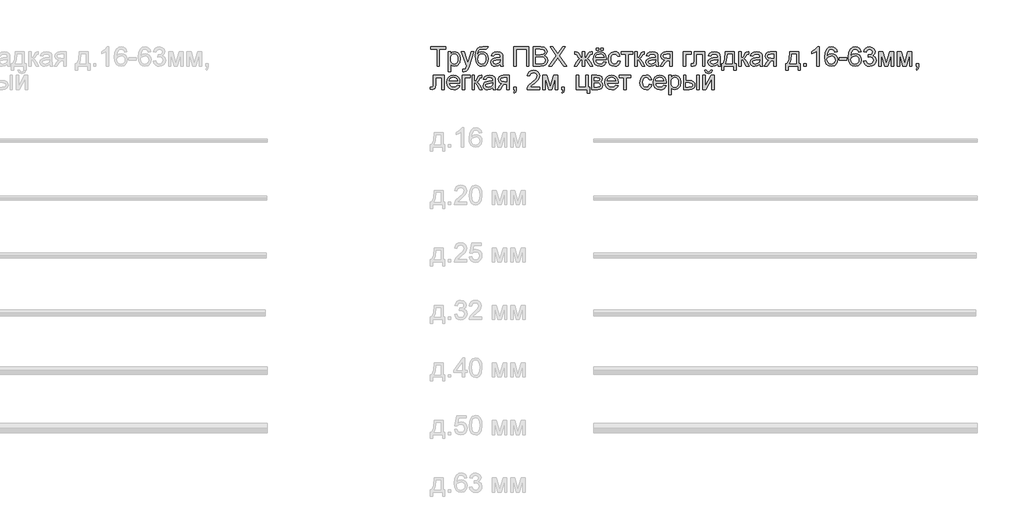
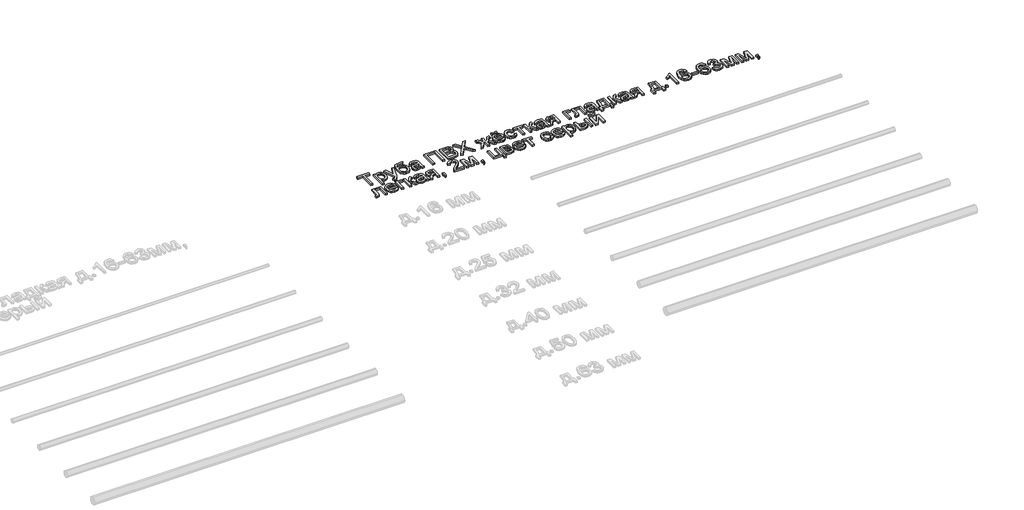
# One storey, part 98 of 98: 1 proxy.
"""IFC4 building model written with IfcOpenShell, lengths in millimetres."""

from ifc_helpers import new_model, si_unit, origin, origin_with_axes, place, context, project, spatial, polyline, outline, extrude, element, save

model = new_model("IFC4")

# Units and contexts
model_context = context("Model", 3, world=origin())
ifc_project = project(units=[si_unit("LENGTHUNIT", "METRE", prefix="MILLI")], contexts=[model_context])

# Site, building, storey
site = spatial("IfcSite", under=ifc_project)
building = spatial("IfcBuilding", under=site)
storey = spatial("IfcBuildingStorey", under=building, Name="Этаж 01", Elevation=0.0)

# Proxy
placement = place(None, origin())
element("IfcBuildingElementProxy", 1, Name="100", ObjectType="100", at=placement, inside=storey, context=model_context, shape_type="SweptSolid", body=[
    extrude(outline(polyline([(14788.710485, -3215.5625308), (14788.710485, -3127.6632594), (14755.7482582, -3127.6632594), (14755.7482582, -3115.1062206), (14834.2297505, -3115.1062206), (14834.2297505, -3127.6632594), (14801.2675238, -3127.6632594), (14801.2675238, -3215.5625308), (14788.710485, -3215.5625308)])), origin_with_axes(), (0.0, 0.0, 1.0), 10.0),
    extrude(outline(polyline([(14846.7867893, -3243.815868), (14846.7867893, -3141.789928), (14859.3438281, -3141.789928), (14859.3438281, -3154.1017121), (14868.0258432, -3143.6906516), (14879.7490161, -3140.2202982), (14895.6660437, -3145.0763405), (14906.0648415, -3158.7615507), (14909.5719831, -3178.1121437), (14905.6111203, -3198.456018), (14894.1086766, -3212.3129065), (14878.2284372, -3217.1321606), (14867.3023419, -3213.9070618), (14859.3438281, -3205.7523442), (14859.3438281, -3243.815868), (14846.7867893, -3243.815868)]), holes=[polyline([(14859.3438281, -3179.2648406), (14860.7019258, -3190.5220296), (14864.7762189, -3198.3947043), (14870.7880238, -3203.0300175), (14877.958657, -3204.5751218), (14885.2457862, -3202.9748352), (14891.4108753, -3198.1739751), (14895.6139271, -3190.0131262), (14897.0149444, -3178.3328729), (14895.6476496, -3167.1369975), (14891.5457654, -3159.1539582), (14885.5431575, -3154.3714922), (14878.4736918, -3152.7773369), (14871.376635, -3154.4726598), (14865.1441009, -3159.5586284), (14860.7938963, -3167.8758271), (14859.3438281, -3179.2648406)])]), origin_with_axes(), (0.0, 0.0, 1.0), 10.0),
    extrude(outline(polyline([(14923.6986518, -3243.815868), (14922.1290219, -3231.7248131), (14928.5056432, -3232.8284591), (14934.4653315, -3231.4427702), (14938.119626, -3227.5800093), (14941.5531913, -3218.3339085), (14942.5342099, -3215.2927506), (14915.8505025, -3141.789928), (14929.0942544, -3141.789928), (14943.2454484, -3182.7474568), (14948.1750672, -3199.1304683), (14953.1046859, -3184.6604432), (14967.6482874, -3141.789928), (14980.7939374, -3141.789928), (14955.1157741, -3217.3283643), (14948.4448473, -3233.7113759), (14941.1607838, -3242.5650692), (14931.3751227, -3245.3854978), (14923.6986518, -3243.815868)])), origin_with_axes(), (0.0, 0.0, 1.0), 10.0),
    extrude(outline(polyline([(15042.9905201, -3113.5365908), (15053.977929, -3113.5365908), (15050.7405674, -3123.3345146), (15044.3394207, -3126.8784445), (15028.9619533, -3127.6632594), (15008.250197, -3130.5572644), (15000.3039459, -3139.8278907), (14997.6184073, -3156.2354277), (15008.4954516, -3144.2179492), (15022.5117557, -3140.2202982), (15035.5776979, -3142.7617496), (15046.1788307, -3150.386104), (15053.2053768, -3162.3453345), (15055.5475588, -3177.8914145), (15050.899983, -3199.4983503), (15039.8757858, -3212.5336357), (15022.5117557, -3217.1321606), (15011.1779245, -3215.6514356), (15002.6829161, -3211.2092605), (14991.8303973, -3196.0525223), (14988.0534754, -3163.8873732), (14990.4355114, -3139.7941682), (14997.5816191, -3125.1003482), (15009.6696083, -3117.6047525), (15026.8772887, -3115.1062206), (15040.8568045, -3114.8241778), (15042.9905201, -3113.5365908)]), holes=[polyline([(15042.9905201, -3177.499007), (15041.6293567, -3167.6183097), (15037.5458665, -3159.7057812), (15030.9853043, -3154.509448), (15022.1929246, -3152.7773369), (15013.0265315, -3154.6075499), (15006.226846, -3160.0981886), (15002.0145972, -3168.6483793), (15000.6105142, -3179.657248), (15002.16175, -3190.3288916), (15006.8154572, -3198.1617124), (15013.7439014, -3202.9717695), (15022.1193482, -3204.5751218), (15030.5377145, -3202.7203835), (15037.20251, -3197.1561683), (15041.5435175, -3188.5324012), (15042.9905201, -3177.499007)])]), origin_with_axes(), (0.0, 0.0, 1.0), 10.0),
    extrude(outline(polyline([(15118.3327527, -3206.1447517), (15106.1558586, -3214.6550885), (15092.7036403, -3217.1321606), (15082.2098064, -3215.6422385), (15074.4689561, -3211.1724723), (15069.6956872, -3204.3850495), (15068.1045976, -3195.9421577), (15070.5080933, -3186.0093438), (15076.8234009, -3178.7988567), (15085.6157806, -3174.6785784), (15096.4805622, -3172.7901175), (15118.2591763, -3168.4736354), (15118.3327527, -3165.6777322), (15114.8746619, -3156.4071059), (15100.993248, -3152.7773369), (15088.2890564, -3155.1930954), (15082.2312662, -3163.7647458), (15069.6742274, -3162.195116), (15075.1066182, -3149.9323828), (15086.0449762, -3142.7464212), (15102.6119287, -3140.2202982), (15117.8299806, -3142.4521156), (15126.4261566, -3148.0561847), (15130.2766548, -3156.5787842), (15130.8897914, -3167.5661931), (15130.8897914, -3183.1889152), (15131.5274536, -3205.0043175), (15134.0290511, -3215.5625308), (15121.4720124, -3215.5625308), (15118.3327527, -3206.1447517)]), holes=[polyline([(15118.3327527, -3181.0306742), (15098.0747175, -3184.8811724), (15087.2712495, -3186.9167861), (15082.378419, -3190.227724), (15080.6616364, -3195.0592409), (15084.40177, -3201.8527951), (15095.3769162, -3204.5751218), (15108.0811077, -3201.5707522), (15116.2726135, -3194.2989514), (15118.2591763, -3184.5868668), (15118.3327527, -3181.0306742)])]), origin_with_axes(), (0.0, 0.0, 1.0), 10.0),
    extrude(outline(polyline([(15188.9660957, -3115.1062206), (15267.447588, -3115.1062206), (15267.447588, -3215.5625308), (15254.8905493, -3215.5625308), (15254.8905493, -3127.6632594), (15201.5231345, -3127.6632594), (15201.5231345, -3215.5625308), (15188.9660957, -3215.5625308), (15188.9660957, -3115.1062206)])), origin_with_axes(), (0.0, 0.0, 1.0), 10.0),
    extrude(outline(polyline([(15289.4224059, -3215.5625308), (15289.4224059, -3115.1062206), (15327.7557098, -3115.1062206), (15346.5299543, -3118.0615393), (15357.6154651, -3127.1482246), (15361.6253788, -3139.999569), (15358.2531272, -3151.7350046), (15348.0627959, -3160.6254862), (15360.4358937, -3169.9942143), (15364.7646385, -3185.6169364), (15361.8093198, -3199.1182056), (15354.4884681, -3208.7321884), (15343.5623728, -3213.8334854), (15327.4614042, -3215.5625308), (15289.4224059, -3215.5625308)]), holes=[polyline([(15301.9794447, -3155.9165966), (15324.9107557, -3155.9165966), (15338.3016603, -3154.8374761), (15346.358276, -3150.1899002), (15349.06834, -3142.0106572), (15346.542217, -3133.8191514), (15339.3072044, -3128.9753718), (15323.1694476, -3127.6632594), (15301.9794447, -3127.6632594), (15301.9794447, -3155.9165966)]), polyline([(15301.9794447, -3203.005492), (15327.7311843, -3203.005492), (15337.0508615, -3202.5149827), (15344.935799, -3199.7803932), (15350.1597233, -3194.2008496), (15352.2075997, -3185.7395637), (15349.804104, -3175.9784281), (15342.0172685, -3170.1536298), (15326.504911, -3168.4736354), (15301.9794447, -3168.4736354), (15301.9794447, -3203.005492)])]), origin_with_axes(), (0.0, 0.0, 1.0), 10.0),
    extrude(outline(polyline([(15371.0431579, -3215.5625308), (15409.7688692, -3160.8216899), (15377.3216773, -3115.1062206), (15392.3803136, -3115.1062206), (15410.651786, -3140.8334348), (15416.8076781, -3150.8643505), (15424.0181652, -3140.6617566), (15442.0934339, -3115.1062206), (15457.3727994, -3115.1062206), (15424.9256074, -3160.9688427), (15463.6513188, -3215.5625308), (15448.5926825, -3215.5625308), (15422.7918919, -3179.1667387), (15417.4208147, -3171.6128951), (15411.5101774, -3179.9025027), (15386.3225234, -3215.5625308), (15371.0431579, -3215.5625308)])), origin_with_axes(), (0.0, 0.0, 1.0), 10.0),
    extrude(outline(polyline([(15557.8291096, -3141.789928), (15557.8291096, -3173.1825249), (15565.1499613, -3170.5950882), (15572.0784055, -3157.1673954), (15580.3434877, -3144.2915256), (15592.0911861, -3141.789928), (15597.0698557, -3141.789928), (15597.0698557, -3154.4205432), (15593.611765, -3154.3469668), (15587.1370419, -3155.6468165), (15582.6488815, -3163.7892713), (15577.4372199, -3172.7165411), (15569.9937409, -3177.2537523), (15578.2036407, -3182.1404515), (15586.2050741, -3192.435016), (15600.2091154, -3215.5625308), (15585.8126667, -3215.5625308), (15572.0293546, -3192.7538471), (15565.0028085, -3183.2747543), (15557.8291096, -3181.0306742), (15557.8291096, -3215.5625308), (15545.2720708, -3215.5625308), (15545.2720708, -3181.0306742), (15538.1228974, -3183.2257034), (15531.0473003, -3192.7047961), (15517.2639882, -3215.5625308), (15502.892065, -3215.5625308), (15516.8470553, -3192.435016), (15524.9098024, -3182.1404515), (15533.1564904, -3177.2537523), (15525.2592903, -3172.2505572), (15518.4902616, -3159.3746874), (15515.1793236, -3155.1317817), (15509.7591955, -3154.2733904), (15506.0313247, -3154.3469668), (15506.0313247, -3141.789928), (15507.9197856, -3141.789928), (15518.93172, -3142.5747429), (15524.6461536, -3145.9102063), (15531.0473003, -3157.1673954), (15537.9021682, -3170.5092491), (15545.2720708, -3173.1825249), (15545.2720708, -3141.789928), (15557.8291096, -3141.789928)])), origin_with_axes(), (0.0, 0.0, 1.0), 10.0),
    extrude(outline(polyline([(15642.5891213, -3133.9417788), (15642.5891213, -3121.38474), (15655.14616, -3121.38474), (15655.14616, -3133.9417788), (15642.5891213, -3133.9417788)])), origin_with_axes(), (0.0, 0.0, 1.0), 10.0),
    extrude(outline(polyline([(15617.4750437, -3133.9417788), (15617.4750437, -3121.38474), (15630.0320825, -3121.38474), (15630.0320825, -3133.9417788), (15617.4750437, -3133.9417788)])), origin_with_axes(), (0.0, 0.0, 1.0), 10.0),
    extrude(outline(polyline([(15658.1382669, -3193.5877129), (15670.450051, -3195.1573428), (15666.0140073, -3204.4341004), (15658.9353446, -3211.368676), (15649.3734784, -3215.6912895), (15637.4878243, -3217.1321606), (15622.7541504, -3214.6458915), (15611.4172535, -3207.187084), (15604.1883723, -3195.2401162), (15601.7787453, -3179.289366), (15604.2128978, -3162.8021213), (15611.5153554, -3150.4719431), (15622.6989681, -3142.7832094), (15636.7765857, -3140.2202982), (15650.4158107, -3142.777078), (15661.3143148, -3150.4474176), (15668.4604226, -3162.7530704), (15670.8424585, -3179.2157896), (15670.7688821, -3182.600304), (15614.335784, -3182.600304), (15616.5093535, -3191.999689), (15621.5585339, -3198.9097391), (15628.8456631, -3203.1587762), (15637.7330789, -3204.5751218), (15650.044863, -3201.9508969), (15658.1382669, -3193.5877129)]), holes=[polyline([(15614.335784, -3170.0432652), (15658.2854197, -3170.0432652), (15653.2576991, -3158.6634488), (15645.9368474, -3154.2488649), (15636.7275348, -3152.7773369), (15621.2642283, -3157.4739637), (15616.3989889, -3162.9646025), (15614.335784, -3170.0432652)])]), origin_with_axes(), (0.0, 0.0, 1.0), 10.0),
    extrude(outline(polyline([(15730.4883926, -3188.8788234), (15743.0454314, -3190.4484532), (15739.5444211, -3201.6167375), (15732.9654647, -3210.0565636), (15723.9278304, -3215.3632614), (15713.0507861, -3217.1321606), (15699.693604, -3214.6642856), (15689.248821, -3207.2606604), (15682.5073834, -3195.2462476), (15680.2602376, -3178.9460095), (15684.0984731, -3158.0871004), (15695.7971205, -3144.683933), (15712.8791078, -3140.2202982), (15723.4894377, -3141.7531398), (15731.9721834, -3146.3516647), (15738.0575647, -3153.7706183), (15741.4758016, -3163.7647458), (15728.9187628, -3165.3343757), (15723.0939645, -3155.9288593), (15712.9772097, -3152.7773369), (15704.862346, -3154.3285727), (15698.4213454, -3158.9822799), (15694.2182936, -3166.9898447), (15692.8172763, -3178.602653), (15694.1876368, -3190.3718111), (15698.2987181, -3198.4069671), (15704.6232227, -3203.0330831), (15712.6338531, -3204.5751218), (15724.4673907, -3200.7246236), (15730.4883926, -3188.8788234)])), origin_with_axes(), (0.0, 0.0, 1.0), 10.0),
    extrude(outline(polyline([(15747.754321, -3141.789928), (15807.4002551, -3141.789928), (15807.4002551, -3154.3469668), (15783.8558074, -3154.3469668), (15783.8558074, -3215.5625308), (15771.2987686, -3215.5625308), (15771.2987686, -3154.3469668), (15747.754321, -3154.3469668), (15747.754321, -3141.789928)])), origin_with_axes(), (0.0, 0.0, 1.0), 10.0),
    extrude(outline(polyline([(15818.387664, -3141.789928), (15830.9447028, -3141.789928), (15830.9447028, -3173.1825249), (15839.3569377, -3170.926182), (15846.2485938, -3157.7805321), (15851.9752902, -3146.4375039), (15857.0275363, -3142.7464212), (15866.2123234, -3141.789928), (15868.6158191, -3141.789928), (15868.6158191, -3154.4205432), (15865.2313047, -3154.3469668), (15859.0999382, -3155.671342), (15854.7834561, -3163.9364241), (15849.7189473, -3172.8759566), (15842.6188248, -3177.2537523), (15850.5405504, -3182.1404515), (15858.3151232, -3192.435016), (15871.7550788, -3215.5625308), (15857.4812574, -3215.5625308), (15844.311082, -3192.9255253), (15837.689206, -3183.3483307), (15830.9447028, -3181.0306742), (15830.9447028, -3215.5625308), (15818.387664, -3215.5625308), (15818.387664, -3141.789928)])), origin_with_axes(), (0.0, 0.0, 1.0), 10.0),
    extrude(outline(polyline([(15926.6921234, -3206.1447517), (15914.5152294, -3214.6550885), (15901.0630111, -3217.1321606), (15890.5691772, -3215.6422385), (15882.8283268, -3211.1724723), (15878.055058, -3204.3850495), (15876.4639683, -3195.9421577), (15878.867464, -3186.0093438), (15885.1827716, -3178.7988567), (15893.9751513, -3174.6785784), (15904.8399329, -3172.7901175), (15926.618547, -3168.4736354), (15926.6921234, -3165.6777322), (15923.2340326, -3156.4071059), (15909.3526187, -3152.7773369), (15896.6484271, -3155.1930954), (15890.5906369, -3163.7647458), (15878.0335982, -3162.195116), (15883.465989, -3149.9323828), (15894.404347, -3142.7464212), (15910.9712995, -3140.2202982), (15926.1893513, -3142.4521156), (15934.7855273, -3148.0561847), (15938.6360255, -3156.5787842), (15939.2491622, -3167.5661931), (15939.2491622, -3183.1889152), (15939.8868243, -3205.0043175), (15942.3884219, -3215.5625308), (15929.8313831, -3215.5625308), (15926.6921234, -3206.1447517)]), holes=[polyline([(15926.6921234, -3181.0306742), (15906.4340882, -3184.8811724), (15895.6306203, -3186.9167861), (15890.7377897, -3190.227724), (15889.0210071, -3195.0592409), (15892.7611407, -3201.8527951), (15903.7362869, -3204.5751218), (15916.4404785, -3201.5707522), (15924.6319842, -3194.2989514), (15926.618547, -3184.5868668), (15926.6921234, -3181.0306742)])]), origin_with_axes(), (0.0, 0.0, 1.0), 10.0),
    extrude(outline(polyline([(16013.0217649, -3141.789928), (16013.0217649, -3215.5625308), (16000.4647262, -3215.5625308), (16000.4647262, -3187.3091935), (15993.6221211, -3187.3091935), (15984.3024438, -3188.9033489), (15975.5468524, -3199.6209776), (15965.5404621, -3215.5625308), (15951.021386, -3215.5625308), (15963.6274757, -3195.4025974), (15974.320579, -3184.9547488), (15965.7366658, -3182.3243925), (15959.7034011, -3177.3273287), (15954.9454606, -3163.1025583), (15956.5702728, -3154.5063823), (15961.4447092, -3147.7005654), (15969.3970917, -3143.2675873), (15980.2557419, -3141.789928), (16013.0217649, -3141.789928)]), holes=[polyline([(16000.4647262, -3154.3469668), (15983.9100364, -3154.3469668), (15970.506869, -3157.2532345), (15967.5024994, -3164.0590514), (15971.9293461, -3172.1647181), (15987.6133818, -3174.7521548), (16000.4647262, -3174.7521548), (16000.4647262, -3154.3469668)])]), origin_with_axes(), (0.0, 0.0, 1.0), 10.0),
    extrude(outline(polyline([(16071.0980692, -3141.789928), (16111.9084452, -3141.789928), (16111.9084452, -3154.3469668), (16083.655108, -3154.3469668), (16083.655108, -3215.5625308), (16071.0980692, -3215.5625308), (16071.0980692, -3141.789928)])), origin_with_axes(), (0.0, 0.0, 1.0), 10.0),
    extrude(outline(polyline([(16127.6047437, -3141.789928), (16184.1114182, -3141.789928), (16184.1114182, -3215.4889544), (16171.5543794, -3215.4889544), (16171.5543794, -3154.3469668), (16140.1617825, -3154.3469668), (16140.1617825, -3189.541011), (16139.3156539, -3205.7768697), (16134.668078, -3212.6317375), (16123.6806691, -3215.5625308), (16113.4780751, -3214.9248686), (16113.4780751, -3203.005492), (16119.0944069, -3203.005492), (16124.7720523, -3202.2329398), (16127.040658, -3199.7803932), (16127.6047437, -3188.8297725), (16127.6047437, -3141.789928)])), origin_with_axes(), (0.0, 0.0, 1.0), 10.0),
    extrude(outline(polyline([(16250.0358717, -3206.1447517), (16237.8589777, -3214.6550885), (16224.4067594, -3217.1321606), (16213.9129255, -3215.6422385), (16206.1720751, -3211.1724723), (16201.3988063, -3204.3850495), (16199.8077166, -3195.9421577), (16202.2112123, -3186.0093438), (16208.5265199, -3178.7988567), (16217.3188996, -3174.6785784), (16228.1836812, -3172.7901175), (16249.9622953, -3168.4736354), (16250.0358717, -3165.6777322), (16246.5777809, -3156.4071059), (16232.696367, -3152.7773369), (16219.9921754, -3155.1930954), (16213.9343852, -3163.7647458), (16201.3773465, -3162.195116), (16206.8097373, -3149.9323828), (16217.7480953, -3142.7464212), (16234.3150478, -3140.2202982), (16249.5330996, -3142.4521156), (16258.1292756, -3148.0561847), (16261.9797738, -3156.5787842), (16262.5929105, -3167.5661931), (16262.5929105, -3183.1889152), (16263.2305726, -3205.0043175), (16265.7321702, -3215.5625308), (16253.1751314, -3215.5625308), (16250.0358717, -3206.1447517)]), holes=[polyline([(16250.0358717, -3181.0306742), (16229.7778365, -3184.8811724), (16218.9743686, -3186.9167861), (16214.081538, -3190.227724), (16212.3647554, -3195.0592409), (16216.104889, -3201.8527951), (16227.0800352, -3204.5751218), (16239.7842268, -3201.5707522), (16247.9757325, -3194.2989514), (16249.9622953, -3184.5868668), (16250.0358717, -3181.0306742)])]), origin_with_axes(), (0.0, 0.0, 1.0), 10.0),
    extrude(outline(polyline([(16290.8462477, -3141.789928), (16337.9351431, -3141.789928), (16337.9351431, -3203.005492), (16347.3529222, -3203.005492), (16347.3529222, -3235.9677188), (16334.7958834, -3235.9677188), (16334.7958834, -3215.5625308), (16282.9980985, -3215.5625308), (16282.9980985, -3235.9677188), (16270.4410597, -3235.9677188), (16270.4410597, -3203.005492), (16278.2892089, -3203.005492), (16287.9890309, -3179.0563741), (16290.8462477, -3141.789928)]), holes=[polyline([(16301.8336566, -3154.3469668), (16298.8906007, -3182.9559233), (16292.4158775, -3203.005492), (16325.3781043, -3203.005492), (16325.3781043, -3154.3469668), (16301.8336566, -3154.3469668)])]), origin_with_axes(), (0.0, 0.0, 1.0), 10.0),
    extrude(outline(polyline([(16361.4795908, -3141.789928), (16374.0366295, -3141.789928), (16374.0366295, -3173.1825249), (16382.4488645, -3170.926182), (16389.3405205, -3157.7805321), (16395.0672169, -3146.4375039), (16400.119463, -3142.7464212), (16409.3042501, -3141.789928), (16411.7077458, -3141.789928), (16411.7077458, -3154.4205432), (16408.3232315, -3154.3469668), (16402.1918649, -3155.671342), (16397.8753828, -3163.9364241), (16392.810874, -3172.8759566), (16385.7107515, -3177.2537523), (16393.6324771, -3182.1404515), (16401.40705, -3192.435016), (16414.8470055, -3215.5625308), (16400.5731841, -3215.5625308), (16387.4030087, -3192.9255253), (16380.7811328, -3183.3483307), (16374.0366295, -3181.0306742), (16374.0366295, -3215.5625308), (16361.4795908, -3215.5625308), (16361.4795908, -3141.789928)])), origin_with_axes(), (0.0, 0.0, 1.0), 10.0),
    extrude(outline(polyline([(16469.7840502, -3206.1447517), (16457.6071561, -3214.6550885), (16444.1549378, -3217.1321606), (16433.6611039, -3215.6422385), (16425.9202536, -3211.1724723), (16421.1469847, -3204.3850495), (16419.5558951, -3195.9421577), (16421.9593908, -3186.0093438), (16428.2746984, -3178.7988567), (16437.067078, -3174.6785784), (16447.9318596, -3172.7901175), (16469.7104738, -3168.4736354), (16469.7840502, -3165.6777322), (16466.3259594, -3156.4071059), (16452.4445454, -3152.7773369), (16439.7403539, -3155.1930954), (16433.6825637, -3163.7647458), (16421.1255249, -3162.195116), (16426.5579157, -3149.9323828), (16437.4962737, -3142.7464212), (16454.0632262, -3140.2202982), (16469.2812781, -3142.4521156), (16477.877454, -3148.0561847), (16481.7279523, -3156.5787842), (16482.3410889, -3167.5661931), (16482.3410889, -3183.1889152), (16482.978751, -3205.0043175), (16485.4803486, -3215.5625308), (16472.9233098, -3215.5625308), (16469.7840502, -3206.1447517)]), holes=[polyline([(16469.7840502, -3181.0306742), (16449.5260149, -3184.8811724), (16438.722547, -3186.9167861), (16433.8297165, -3190.227724), (16432.1129338, -3195.0592409), (16435.8530675, -3201.8527951), (16446.8282137, -3204.5751218), (16459.5324052, -3201.5707522), (16467.723911, -3194.2989514), (16469.7104738, -3184.5868668), (16469.7840502, -3181.0306742)])]), origin_with_axes(), (0.0, 0.0, 1.0), 10.0),
    extrude(outline(polyline([(16556.1136917, -3141.789928), (16556.1136917, -3215.5625308), (16543.5566529, -3215.5625308), (16543.5566529, -3187.3091935), (16536.7140478, -3187.3091935), (16527.3943706, -3188.9033489), (16518.6387791, -3199.6209776), (16508.6323888, -3215.5625308), (16494.1133128, -3215.5625308), (16506.7194025, -3195.4025974), (16517.4125058, -3184.9547488), (16508.8285926, -3182.3243925), (16502.7953279, -3177.3273287), (16498.0373874, -3163.1025583), (16499.6621995, -3154.5063823), (16504.536636, -3147.7005654), (16512.4890184, -3143.2675873), (16523.3476686, -3141.789928), (16556.1136917, -3141.789928)]), holes=[polyline([(16543.5566529, -3154.3469668), (16527.0019631, -3154.3469668), (16513.5987958, -3157.2532345), (16510.5944261, -3164.0590514), (16515.0212728, -3172.1647181), (16530.7053086, -3174.7521548), (16543.5566529, -3174.7521548), (16543.5566529, -3154.3469668)])]), origin_with_axes(), (0.0, 0.0, 1.0), 10.0),
    extrude(outline(polyline([(16625.1774049, -3141.789928), (16672.2663003, -3141.789928), (16672.2663003, -3203.005492), (16681.6840794, -3203.005492), (16681.6840794, -3235.9677188), (16669.1270406, -3235.9677188), (16669.1270406, -3215.5625308), (16617.3292557, -3215.5625308), (16617.3292557, -3235.9677188), (16604.7722169, -3235.9677188), (16604.7722169, -3203.005492), (16612.6203661, -3203.005492), (16622.3201881, -3179.0563741), (16625.1774049, -3141.789928)]), holes=[polyline([(16636.1648138, -3154.3469668), (16633.2217579, -3182.9559233), (16626.7470348, -3203.005492), (16659.7092615, -3203.005492), (16659.7092615, -3154.3469668), (16636.1648138, -3154.3469668)])]), origin_with_axes(), (0.0, 0.0, 1.0), 10.0),
    extrude(outline(polyline([(16698.9500077, -3215.5625308), (16698.9500077, -3203.005492), (16711.5070464, -3203.005492), (16711.5070464, -3215.5625308), (16698.9500077, -3215.5625308)])), origin_with_axes(), (0.0, 0.0, 1.0), 10.0),
    extrude(outline(polyline([(16779.0011298, -3215.5625308), (16766.4440911, -3215.5625308), (16766.4440911, -3137.2772422), (16754.5492399, -3145.7507908), (16741.3300135, -3152.0906239), (16741.3300135, -3140.2202982), (16759.736376, -3128.4725998), (16770.9077259, -3115.1062206), (16779.0011298, -3115.1062206), (16779.0011298, -3215.5625308)])), origin_with_axes(), (0.0, 0.0, 1.0), 10.0),
    extrude(outline(polyline([(16873.1789206, -3141.789928), (16860.6218818, -3143.3595578), (16855.8639414, -3132.8871837), (16843.2823771, -3127.6632594), (16831.9516117, -3130.7044172), (16823.3799612, -3142.1210218), (16819.8115058, -3164.5005098), (16830.8847539, -3154.4818568), (16844.6067523, -3151.2077071), (16856.2072979, -3153.4456559), (16865.943908, -3160.1595023), (16872.5473898, -3170.4172786), (16874.7485504, -3183.2870171), (16870.6037466, -3200.614259), (16859.1994048, -3212.8769922), (16842.7428169, -3217.1321606), (16828.4965866, -3214.311732), (16817.1504927, -3205.8504461), (16809.7284735, -3190.9144371), (16807.2544671, -3168.6698391), (16810.0013193, -3143.6599948), (16818.241876, -3126.5596134), (16829.4929337, -3117.9695688), (16844.067192, -3115.1062206), (16855.0852578, -3116.8781856), (16863.9082943, -3122.1940804), (16870.0887118, -3130.6369722), (16873.1789206, -3141.789928)]), holes=[polyline([(16819.8115058, -3183.0908133), (16822.7177736, -3193.9678577), (16830.4432955, -3201.8650578), (16841.7617982, -3204.5751218), (16850.0483401, -3203.1710389), (16856.5629171, -3198.9587901), (16860.784363, -3192.3369141), (16862.1915117, -3183.70395), (16860.8027571, -3175.417408), (16856.6364935, -3169.0990348), (16850.0115519, -3165.0983181), (16841.2467634, -3163.7647458), (16826.053237, -3169.0990348), (16821.3719386, -3175.2641239), (16819.8115058, -3183.0908133)])]), origin_with_axes(), (0.0, 0.0, 1.0), 10.0),
    extrude(outline(polyline([(16882.5966997, -3185.7395637), (16882.5966997, -3173.1825249), (16921.8374458, -3173.1825249), (16921.8374458, -3185.7395637), (16882.5966997, -3185.7395637)])), origin_with_axes(), (0.0, 0.0, 1.0), 10.0),
    extrude(outline(polyline([(16997.1796784, -3141.789928), (16984.6226397, -3143.3595578), (16979.8646992, -3132.8871837), (16967.283135, -3127.6632594), (16955.9523695, -3130.7044172), (16947.380719, -3142.1210218), (16943.8122637, -3164.5005098), (16954.8855117, -3154.4818568), (16968.6075101, -3151.2077071), (16980.2080557, -3153.4456559), (16989.9446659, -3160.1595023), (16996.5481477, -3170.4172786), (16998.7493083, -3183.2870171), (16994.6045045, -3200.614259), (16983.2001626, -3212.8769922), (16966.7435747, -3217.1321606), (16952.4973444, -3214.311732), (16941.1512506, -3205.8504461), (16933.7292313, -3190.9144371), (16931.2552249, -3168.6698391), (16934.0020771, -3143.6599948), (16942.2426338, -3126.5596134), (16953.4936915, -3117.9695688), (16968.0679499, -3115.1062206), (16979.0860156, -3116.8781856), (16987.9090522, -3122.1940804), (16994.0894697, -3130.6369722), (16997.1796784, -3141.789928)]), holes=[polyline([(16943.8122637, -3183.0908133), (16946.7185314, -3193.9678577), (16954.4440533, -3201.8650578), (16965.762556, -3204.5751218), (16974.049098, -3203.1710389), (16980.563675, -3198.9587901), (16984.7851209, -3192.3369141), (16986.1922695, -3183.70395), (16984.803515, -3175.417408), (16980.6372514, -3169.0990348), (16974.0123098, -3165.0983181), (16965.2475213, -3163.7647458), (16950.0539949, -3169.0990348), (16945.3726965, -3175.2641239), (16943.8122637, -3183.0908133)])]), origin_with_axes(), (0.0, 0.0, 1.0), 10.0),
    extrude(outline(polyline([(17009.7367172, -3188.8788234), (17022.293756, -3187.3091935), (17029.2222002, -3200.5284199), (17042.1839092, -3204.5751218), (17050.7923479, -3203.1833016), (17057.4387492, -3199.007841), (17063.104132, -3185.2245289), (17057.4878002, -3172.2382945), (17043.2139788, -3167.1002093), (17034.4093363, -3168.4736354), (17035.8072879, -3155.9165966), (17037.8183762, -3156.0637494), (17052.0676721, -3152.4585059), (17056.8133499, -3147.8845064), (17058.3952424, -3141.3729951), (17053.8089802, -3131.5505458), (17041.9877054, -3127.6632594), (17030.0192779, -3131.587334), (17023.8633858, -3143.3595578), (17011.3063471, -3141.789928), (17015.0035611, -3130.5143448), (17021.5825174, -3122.0959785), (17030.5833636, -3116.8536601), (17041.5462471, -3115.1062206), (17056.6907225, -3118.5520486), (17067.285724, -3127.9698277), (17070.9522812, -3140.6372311), (17067.469665, -3152.2132512), (17057.1689691, -3160.5273843), (17070.8541793, -3169.1112975), (17075.6611707, -3185.4452581), (17073.257675, -3197.6834658), (17066.0471879, -3207.9105853), (17055.1640122, -3214.8267668), (17041.7424508, -3217.1321606), (17029.6023449, -3215.1639919), (17019.718582, -3209.2594859), (17012.8453201, -3200.2279829), (17009.7367172, -3188.8788234)])), origin_with_axes(), (0.0, 0.0, 1.0), 10.0),
    extrude(outline(polyline([(17089.7878394, -3141.789928), (17111.3947752, -3141.789928), (17128.0475669, -3200.847251), (17146.0002082, -3141.789928), (17166.6997018, -3141.789928), (17166.6997018, -3215.5625308), (17154.142663, -3215.5625308), (17154.142663, -3156.1618513), (17136.0919198, -3215.5625308), (17119.6108064, -3215.5625308), (17102.3448781, -3153.3168972), (17102.3448781, -3215.5625308), (17089.7878394, -3215.5625308), (17089.7878394, -3141.789928)])), origin_with_axes(), (0.0, 0.0, 1.0), 10.0),
    extrude(outline(polyline([(17185.53526, -3141.789928), (17207.1421958, -3141.789928), (17223.7949875, -3200.847251), (17241.7476288, -3141.789928), (17262.4471224, -3141.789928), (17262.4471224, -3215.5625308), (17249.8900837, -3215.5625308), (17249.8900837, -3156.1618513), (17231.8393404, -3215.5625308), (17215.358227, -3215.5625308), (17198.0922987, -3153.3168972), (17198.0922987, -3215.5625308), (17185.53526, -3215.5625308), (17185.53526, -3141.789928)])), origin_with_axes(), (0.0, 0.0, 1.0), 10.0),
    extrude(outline(polyline([(17284.4219403, -3215.5625308), (17284.4219403, -3203.005492), (17296.978979, -3203.005492), (17296.978979, -3215.5625308), (17294.7226361, -3228.4016124), (17287.5612, -3235.9677188), (17284.4219403, -3231.2588292), (17289.0327279, -3225.8387012), (17290.6759342, -3215.5625308), (17284.4219403, -3215.5625308)])), origin_with_axes(), (0.0, 0.0, 1.0), 10.0),
    extrude(outline(polyline([(14768.305297, -3263.7647458), (14824.8119715, -3263.7647458), (14824.8119715, -3337.4637722), (14812.2549327, -3337.4637722), (14812.2549327, -3276.3217846), (14780.8623358, -3276.3217846), (14780.8623358, -3311.5158288), (14780.0162072, -3327.7516875), (14775.3686313, -3334.6065554), (14764.3812224, -3337.5373486), (14754.1786284, -3336.8996865), (14754.1786284, -3324.9803098), (14759.7949602, -3324.9803098), (14765.4726056, -3324.2077577), (14767.7412113, -3321.755211), (14768.305297, -3310.8045903), (14768.305297, -3263.7647458)])), origin_with_axes(), (0.0, 0.0, 1.0), 10.0),
    extrude(outline(polyline([(14895.2981617, -3315.5625308), (14907.6099458, -3317.1321606), (14903.1739021, -3326.4089183), (14896.0952394, -3333.3434939), (14886.5333732, -3337.6661073), (14874.6477191, -3339.1069785), (14859.9140452, -3336.6207093), (14848.5771483, -3329.1619019), (14841.3482671, -3317.2149341), (14838.9386401, -3301.2641839), (14841.3727926, -3284.7769391), (14848.6752502, -3272.4467609), (14859.8588629, -3264.7580272), (14873.9364805, -3262.195116), (14887.5757055, -3264.7518959), (14898.4742096, -3272.4222355), (14905.6203174, -3284.7278882), (14908.0023533, -3301.1906075), (14907.9287769, -3304.5751218), (14851.4956788, -3304.5751218), (14853.6692483, -3313.9745068), (14858.7184287, -3320.884557), (14866.0055579, -3325.133594), (14874.8929737, -3326.5499397), (14887.2047578, -3323.9257148), (14895.2981617, -3315.5625308)]), holes=[polyline([(14851.4956788, -3292.0180831), (14895.4453145, -3292.0180831), (14890.4175939, -3280.6382667), (14883.0967422, -3276.2236828), (14873.8874296, -3274.7521548), (14858.4241231, -3279.4487816), (14853.5588837, -3284.9394204), (14851.4956788, -3292.0180831)])]), origin_with_axes(), (0.0, 0.0, 1.0), 10.0),
    extrude(outline(polyline([(14920.5593921, -3263.7647458), (14961.3697681, -3263.7647458), (14961.3697681, -3276.3217846), (14933.1164308, -3276.3217846), (14933.1164308, -3337.5373486), (14920.5593921, -3337.5373486), (14920.5593921, -3263.7647458)])), origin_with_axes(), (0.0, 0.0, 1.0), 10.0),
    extrude(outline(polyline([(14970.7875471, -3263.7647458), (14983.3445859, -3263.7647458), (14983.3445859, -3295.1573428), (14991.7568209, -3292.9009999), (14998.6484769, -3279.7553499), (15004.3751733, -3268.4123217), (15009.4274194, -3264.721239), (15018.6122065, -3263.7647458), (15021.0157022, -3263.7647458), (15021.0157022, -3276.395361), (15017.6311879, -3276.3217846), (15011.4998213, -3277.6461598), (15007.1833392, -3285.911242), (15002.1188304, -3294.8507744), (14995.0187079, -3299.2285702), (15002.9404335, -3304.1152694), (15010.7150063, -3314.4098338), (15024.1549619, -3337.5373486), (15009.8811405, -3337.5373486), (14996.7109651, -3314.9003432), (14990.0890892, -3305.3231486), (14983.3445859, -3303.005492), (14983.3445859, -3337.5373486), (14970.7875471, -3337.5373486), (14970.7875471, -3263.7647458)])), origin_with_axes(), (0.0, 0.0, 1.0), 10.0),
    extrude(outline(polyline([(15079.0920065, -3328.1195695), (15066.9151125, -3336.6299064), (15053.4628942, -3339.1069785), (15042.9690603, -3337.6170564), (15035.22821, -3333.1472901), (15030.4549411, -3326.3598673), (15028.8638514, -3317.9169755), (15031.2673471, -3307.9841617), (15037.5826547, -3300.7736746), (15046.3750344, -3296.6533962), (15057.239816, -3294.7649353), (15079.0184301, -3290.4484532), (15079.0920065, -3287.6525501), (15075.6339158, -3278.3819238), (15061.7525018, -3274.7521548), (15049.0483102, -3277.1679132), (15042.9905201, -3285.7395637), (15030.4334813, -3284.1699338), (15035.8658721, -3271.9072007), (15046.8042301, -3264.721239), (15063.3711826, -3262.195116), (15078.5892345, -3264.4269334), (15087.1854104, -3270.0310025), (15091.0359086, -3278.5536021), (15091.6490453, -3289.541011), (15091.6490453, -3305.163733), (15092.2867074, -3326.9791354), (15094.788305, -3337.5373486), (15082.2312662, -3337.5373486), (15079.0920065, -3328.1195695)]), holes=[polyline([(15079.0920065, -3303.005492), (15058.8339713, -3306.8559902), (15048.0305034, -3308.8916039), (15043.1376729, -3312.2025419), (15041.4208902, -3317.0340587), (15045.1610238, -3323.8276129), (15056.13617, -3326.5499397), (15068.8403616, -3323.5455701), (15077.0318673, -3316.2737693), (15079.0184301, -3306.5616846), (15079.0920065, -3303.005492)])]), origin_with_axes(), (0.0, 0.0, 1.0), 10.0),
    extrude(outline(polyline([(15165.4216481, -3263.7647458), (15165.4216481, -3337.5373486), (15152.8646093, -3337.5373486), (15152.8646093, -3309.2840114), (15146.0220042, -3309.2840114), (15136.702327, -3310.8781667), (15127.9467355, -3321.5957955), (15117.9403452, -3337.5373486), (15103.4212691, -3337.5373486), (15116.0273588, -3317.3774153), (15126.7204622, -3306.9295666), (15118.1365489, -3304.2992103), (15112.1032842, -3299.3021466), (15107.3453437, -3285.0773761), (15108.9701559, -3276.4812001), (15113.8445923, -3269.6753832), (15121.7969748, -3265.2424052), (15132.655625, -3263.7647458), (15165.4216481, -3263.7647458)]), holes=[polyline([(15152.8646093, -3276.3217846), (15136.3099195, -3276.3217846), (15122.9067521, -3279.2280524), (15119.9023825, -3286.0338693), (15124.3292292, -3294.1395359), (15140.0132649, -3296.7269726), (15152.8646093, -3296.7269726), (15152.8646093, -3276.3217846)])]), origin_with_axes(), (0.0, 0.0, 1.0), 10.0),
    extrude(outline(polyline([(15187.3964659, -3337.5373486), (15187.3964659, -3324.9803098), (15199.9535047, -3324.9803098), (15199.9535047, -3337.5373486), (15197.6971618, -3350.3764302), (15190.5357256, -3357.9425366), (15187.3964659, -3353.2336471), (15192.0072536, -3347.813519), (15193.6504598, -3337.5373486), (15187.3964659, -3337.5373486)])), origin_with_axes(), (0.0, 0.0, 1.0), 10.0),
    extrude(outline(polyline([(15323.9542625, -3324.9803098), (15323.9542625, -3337.5373486), (15258.029809, -3337.5373486), (15259.3787096, -3328.879859), (15267.0061297, -3315.550268), (15282.7269536, -3300.9944038), (15304.4074658, -3280.074181), (15309.8275939, -3265.8494105), (15304.7140342, -3254.334704), (15291.3599177, -3249.6380772), (15277.4417156, -3254.2243394), (15272.1564776, -3266.9040055), (15259.5994388, -3265.3343757), (15262.6436623, -3253.1881385), (15269.2256844, -3244.316051), (15279.0021484, -3238.8897916), (15291.6296979, -3237.0810385), (15304.3492178, -3239.0921267), (15314.1072878, -3245.1253914), (15320.3152964, -3254.1385003), (15322.3846327, -3265.089121), (15320.1528152, -3276.9962349), (15312.7338617, -3289.308019), (15294.7444321, -3306.5126337), (15280.2989324, -3318.5914259), (15274.6335497, -3324.9803098), (15323.9542625, -3324.9803098)])), origin_with_axes(), (0.0, 0.0, 1.0), 10.0),
    extrude(outline(polyline([(15339.650561, -3263.7647458), (15361.2574968, -3263.7647458), (15377.9102885, -3322.8220688), (15395.8629298, -3263.7647458), (15416.5624234, -3263.7647458), (15416.5624234, -3337.5373486), (15404.0053847, -3337.5373486), (15404.0053847, -3278.1366691), (15385.9546414, -3337.5373486), (15369.473528, -3337.5373486), (15352.2075997, -3275.291715), (15352.2075997, -3337.5373486), (15339.650561, -3337.5373486), (15339.650561, -3263.7647458)])), origin_with_axes(), (0.0, 0.0, 1.0), 10.0),
    extrude(outline(polyline([(15438.5372413, -3337.5373486), (15438.5372413, -3324.9803098), (15451.09428, -3324.9803098), (15451.09428, -3337.5373486), (15448.8379371, -3350.3764302), (15441.676501, -3357.9425366), (15438.5372413, -3353.2336471), (15443.1480289, -3347.813519), (15444.7912352, -3337.5373486), (15438.5372413, -3337.5373486)])), origin_with_axes(), (0.0, 0.0, 1.0), 10.0),
    extrude(outline(polyline([(15513.8794739, -3263.7647458), (15526.4365127, -3263.7647458), (15526.4365127, -3324.9803098), (15562.5379991, -3324.9803098), (15562.5379991, -3263.7647458), (15575.0950379, -3263.7647458), (15575.0950379, -3324.9803098), (15582.9431871, -3324.9803098), (15582.9431871, -3357.9425366), (15570.3861483, -3357.9425366), (15570.3861483, -3337.5373486), (15513.8794739, -3337.5373486), (15513.8794739, -3263.7647458)])), origin_with_axes(), (0.0, 0.0, 1.0), 10.0),
    extrude(outline(polyline([(15593.930596, -3263.7647458), (15621.5953221, -3263.7647458), (15636.764323, -3265.4447403), (15645.2991853, -3271.6006323), (15648.8676406, -3282.3305239), (15646.7093996, -3291.0493272), (15640.210151, -3297.2665329), (15648.6469114, -3304.0723498), (15652.0069003, -3315.9058873), (15649.8793161, -3325.4769505), (15644.8209387, -3332.2153224), (15636.8133739, -3336.2068421), (15625.8382277, -3337.5373486), (15593.930596, -3337.5373486), (15593.930596, -3263.7647458)]), holes=[polyline([(15606.4876348, -3292.0180831), (15618.8975208, -3292.0180831), (15629.136903, -3291.380421), (15634.1155726, -3288.8297725), (15636.3106019, -3284.2189848), (15632.4601037, -3278.0630927), (15619.2899282, -3276.3217846), (15606.4876348, -3276.3217846), (15606.4876348, -3292.0180831)]), polyline([(15606.4876348, -3324.9803098), (15621.8896277, -3324.9803098), (15635.5503124, -3322.7117042), (15639.4498616, -3314.8758177), (15637.3038833, -3308.8302903), (15631.7120769, -3305.3108858), (15620.6633543, -3304.5751218), (15606.4876348, -3304.5751218), (15606.4876348, -3324.9803098)])]), origin_with_axes(), (0.0, 0.0, 1.0), 10.0),
    extrude(outline(polyline([(15719.3538309, -3315.5625308), (15731.665615, -3317.1321606), (15727.2295713, -3326.4089183), (15720.1509086, -3333.3434939), (15710.5890424, -3337.6661073), (15698.7033883, -3339.1069785), (15683.9697144, -3336.6207093), (15672.6328175, -3329.1619019), (15665.4039363, -3317.2149341), (15662.9943093, -3301.2641839), (15665.4284618, -3284.7769391), (15672.7309194, -3272.4467609), (15683.9145321, -3264.7580272), (15697.9921497, -3262.195116), (15711.6313747, -3264.7518959), (15722.5298788, -3272.4222355), (15729.6759866, -3284.7278882), (15732.0580225, -3301.1906075), (15731.9844461, -3304.5751218), (15675.551348, -3304.5751218), (15677.7249175, -3313.9745068), (15682.7740979, -3320.884557), (15690.0612271, -3325.133594), (15698.9486429, -3326.5499397), (15711.260427, -3323.9257148), (15719.3538309, -3315.5625308)]), holes=[polyline([(15675.551348, -3292.0180831), (15719.5009837, -3292.0180831), (15714.4732631, -3280.6382667), (15707.1524114, -3276.2236828), (15697.9430988, -3274.7521548), (15682.4797923, -3279.4487816), (15677.6145529, -3284.9394204), (15675.551348, -3292.0180831)])]), origin_with_axes(), (0.0, 0.0, 1.0), 10.0),
    extrude(outline(polyline([(15738.3365419, -3263.7647458), (15797.982476, -3263.7647458), (15797.982476, -3276.3217846), (15774.4380283, -3276.3217846), (15774.4380283, -3337.5373486), (15761.8809896, -3337.5373486), (15761.8809896, -3276.3217846), (15738.3365419, -3276.3217846), (15738.3365419, -3263.7647458)])), origin_with_axes(), (0.0, 0.0, 1.0), 10.0),
    extrude(outline(polyline([(15895.2995265, -3310.8536412), (15907.8565653, -3312.4232711), (15904.3555549, -3323.5915553), (15897.7765986, -3332.0313814), (15888.7389642, -3337.3380792), (15877.8619199, -3339.1069785), (15864.5047378, -3336.6391034), (15854.0599548, -3329.2354783), (15847.3185173, -3317.2210654), (15845.0713714, -3300.9208274), (15848.9096069, -3280.0619182), (15860.6082543, -3266.6587509), (15877.6902416, -3262.195116), (15888.3005715, -3263.7279576), (15896.7833172, -3268.3264826), (15902.8686985, -3275.7454362), (15906.2869354, -3285.7395637), (15893.7298966, -3287.3091935), (15887.9050984, -3277.9036772), (15877.7883435, -3274.7521548), (15869.6734798, -3276.3033905), (15863.2324792, -3280.9570978), (15859.0294274, -3288.9646625), (15857.6284102, -3300.5774708), (15858.9987706, -3312.346629), (15863.1098519, -3320.3817849), (15869.4343565, -3325.007901), (15877.444987, -3326.5499397), (15889.2785245, -3322.6994415), (15895.2995265, -3310.8536412)])), origin_with_axes(), (0.0, 0.0, 1.0), 10.0),
    extrude(outline(polyline([(15970.4946063, -3315.5625308), (15982.8063904, -3317.1321606), (15978.3703467, -3326.4089183), (15971.291684, -3333.3434939), (15961.7298178, -3337.6661073), (15949.8441636, -3339.1069785), (15935.1104897, -3336.6207093), (15923.7735929, -3329.1619019), (15916.5447117, -3317.2149341), (15914.1350846, -3301.2641839), (15916.5692372, -3284.7769391), (15923.8716948, -3272.4467609), (15935.0553074, -3264.7580272), (15949.1329251, -3262.195116), (15962.7721501, -3264.7518959), (15973.6706542, -3272.4222355), (15980.8167619, -3284.7278882), (15983.1987979, -3301.1906075), (15983.1252215, -3304.5751218), (15926.6921234, -3304.5751218), (15928.8656929, -3313.9745068), (15933.9148732, -3320.884557), (15941.2020024, -3325.133594), (15950.0894183, -3326.5499397), (15962.4012024, -3323.9257148), (15970.4946063, -3315.5625308)]), holes=[polyline([(15926.6921234, -3292.0180831), (15970.6417591, -3292.0180831), (15965.6140385, -3280.6382667), (15958.2931868, -3276.2236828), (15949.0838742, -3274.7521548), (15933.6205676, -3279.4487816), (15928.7553283, -3284.9394204), (15926.6921234, -3292.0180831)])]), origin_with_axes(), (0.0, 0.0, 1.0), 10.0),
    extrude(outline(polyline([(15995.7558366, -3365.7906858), (15995.7558366, -3263.7647458), (16008.3128754, -3263.7647458), (16008.3128754, -3276.07653), (16016.9948905, -3265.6654695), (16028.7180634, -3262.195116), (16044.6350911, -3267.0511583), (16055.0338888, -3280.7363686), (16058.5410305, -3300.0869615), (16054.5801677, -3320.4308358), (16043.0777239, -3334.2877243), (16027.1974845, -3339.1069785), (16016.2713892, -3335.8818796), (16008.3128754, -3327.7271621), (16008.3128754, -3365.7906858), (15995.7558366, -3365.7906858)]), holes=[polyline([(16008.3128754, -3301.2396584), (16009.6709731, -3312.4968475), (16013.7452662, -3320.3695222), (16019.7570711, -3325.0048353), (16026.9277044, -3326.5499397), (16034.2148335, -3324.949653), (16040.3799226, -3320.148793), (16044.5829744, -3311.987944), (16045.9839917, -3300.3076907), (16044.616697, -3289.1118153), (16040.5148127, -3281.128776), (16034.5122048, -3276.3463101), (16027.4427391, -3274.7521548), (16020.3456823, -3276.4474776), (16014.1131482, -3281.5334462), (16009.7629436, -3289.850645), (16008.3128754, -3301.2396584)])]), origin_with_axes(), (0.0, 0.0, 1.0), 10.0),
    extrude(outline(polyline([(16072.6676991, -3263.7647458), (16085.2247379, -3263.7647458), (16085.2247379, -3290.4484532), (16100.7493581, -3290.4484532), (16114.1678538, -3292.0211488), (16124.1098647, -3296.7392353), (16130.2626911, -3304.2225683), (16132.3136332, -3314.0910028), (16130.5937849, -3323.0765205), (16125.4342399, -3330.6579553), (16116.4977731, -3335.8175003), (16103.4471594, -3337.5373486), (16072.6676991, -3337.5373486), (16072.6676991, -3263.7647458)]), holes=[polyline([(16085.2247379, -3324.9803098), (16098.1251332, -3324.9803098), (16114.7779248, -3322.3438222), (16119.7565945, -3314.1155283), (16116.0655118, -3306.3900064), (16099.7683394, -3303.005492), (16085.2247379, -3303.005492), (16085.2247379, -3324.9803098)])]), origin_with_axes(), (0.0, 0.0, 1.0), 10.0),
    extrude(outline(polyline([(16141.7314123, -3263.7647458), (16154.2884511, -3263.7647458), (16154.2884511, -3337.5373486), (16141.7314123, -3337.5373486), (16141.7314123, -3263.7647458)])), origin_with_axes(), (0.0, 0.0, 1.0), 10.0),
    extrude(outline(polyline([(16213.9343852, -3237.0810385), (16223.3521643, -3237.0810385), (16217.2575859, -3251.0482915), (16203.7317912, -3255.9165966), (16189.0900878, -3251.0850797), (16182.5417883, -3237.0810385), (16191.9595674, -3237.0810385), (16195.4912345, -3244.1566355), (16202.6036198, -3246.4988175), (16210.4027181, -3244.2302119), (16213.9343852, -3237.0810385)])), origin_with_axes(), (0.0, 0.0, 1.0), 10.0),
    extrude(outline(polyline([(16173.1240092, -3263.7647458), (16185.681048, -3263.7647458), (16185.681048, -3320.0261656), (16216.5340847, -3263.7647458), (16232.7699434, -3263.7647458), (16232.7699434, -3337.5373486), (16220.2129046, -3337.5373486), (16220.2129046, -3281.6192853), (16189.5560717, -3337.5373486), (16173.1240092, -3337.5373486), (16173.1240092, -3263.7647458)])), origin_with_axes(), (0.0, 0.0, 1.0), 10.0),
])

save(model, "model.ifc")
